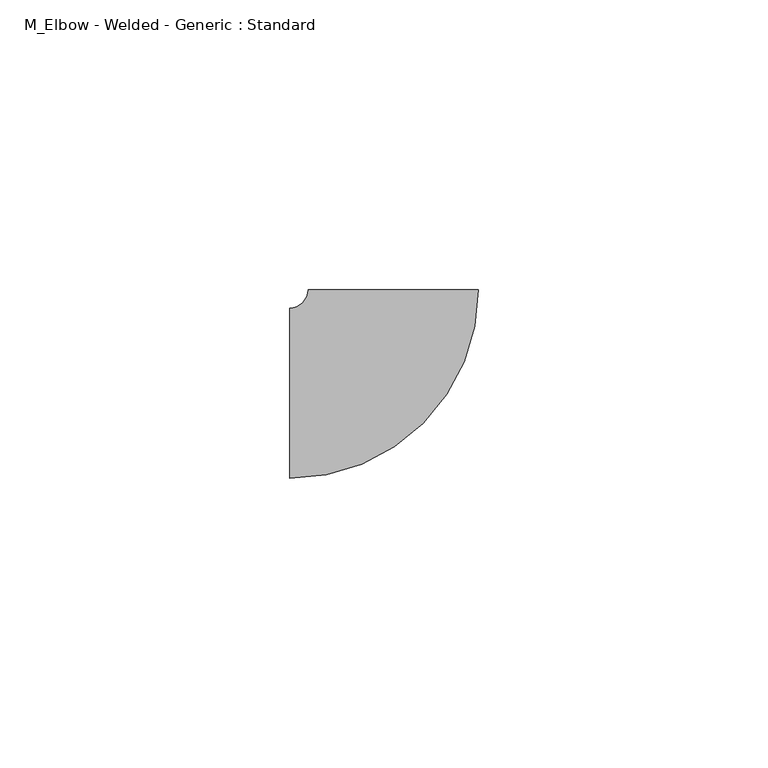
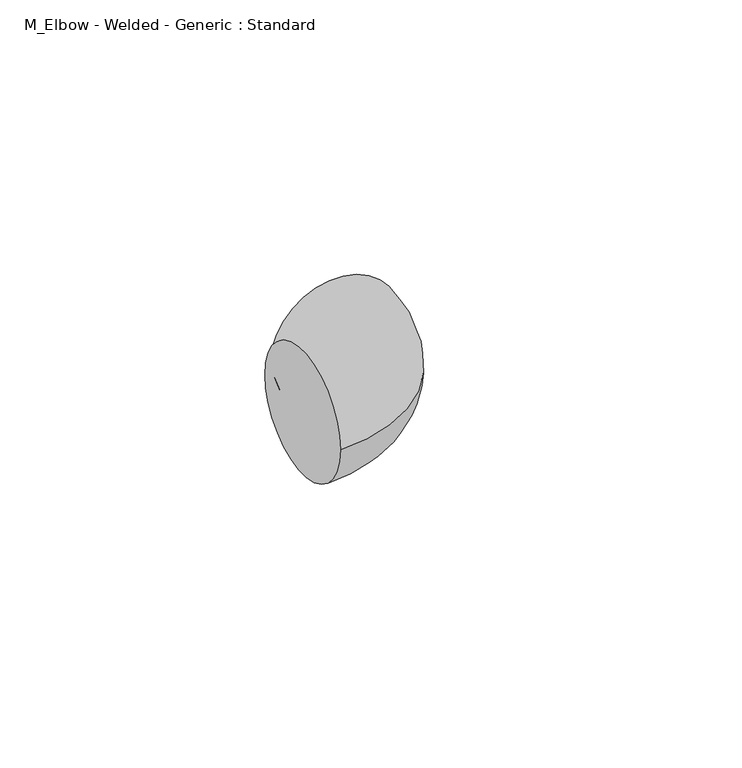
"""IFC4 building model written with IfcOpenShell, lengths in millimetres: pipe fitting geometry, M_Elbow - Welded - Generic : Standard."""

from ifc_helpers import new_model, si_unit, point, frame, origin, place, context, project, spatial, circle_curve, ellipse_curve, trimmed, source, transform, mapped, element, save
from ifc_brep_helpers import plane_surface, revolved_surface, advanced_brep


def m_elbow_welded_generic_standard_71397803(model_context):
    return source(origin(), model_context, "Body", "AdvancedBrep", [
        advanced_brep(
        [(-17.909402, -14.7089844, 0.0), (-17.909402, 14.7089844, 0.0), (14.7085668, 17.9097449, 0.0), (-14.709402, 17.909059, 0.0)],
        [
            (0, 1, circle_curve(frame((-17.909402, 0.0, 0.0), z_axis=(-1.0, 0.0, 0.0), x_axis=(0.0, 1.0, 0.0)), 14.7089844)),
            (1, 0, circle_curve(frame((-17.909402, 0.0, 0.0), z_axis=(-1.0, 0.0, 0.0), x_axis=(0.0, 1.0, 0.0)), 14.7089844)),
            (2, 3, circle_curve(frame((-0.0004176, 17.909402, 0.0), z_axis=(-2.331698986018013e-05, 0.999999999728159, 0.0), x_axis=(-0.999999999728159, -2.331698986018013e-05, 0.0)), 14.7089844)),
            (3, 2, circle_curve(frame((-0.0004176, 17.909402, 0.0), z_axis=(-2.331698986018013e-05, 0.999999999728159, 0.0), x_axis=(-0.999999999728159, -2.331698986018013e-05, 0.0)), 14.7089844)),
            (3, 1, circle_curve(frame((-17.909402, 17.9089844, 0.0), z_axis=(0.0, 0.0, -1.0), x_axis=(0.0, -1.0, 0.0)), 3.2)),
            (0, 2, circle_curve(frame((-17.909402, 17.9089844, 0.0), z_axis=(0.0, 0.0, 1.0), x_axis=(0.0, -1.0, 0.0)), 32.6179688)),
        ],
        [
            plane_surface(frame((-17.909402, 0.0, 0.0), z_axis=(-1.0, 0.0, 0.0), x_axis=(0.0, 0.0, 1.0))),
            plane_surface(frame((-0.0004176, 17.909402, 0.0), z_axis=(-2.3316989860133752e-05, 0.9999999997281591, 0.0), x_axis=(0.0, 0.0, 1.0))),
            revolved_surface(trimmed(ellipse_curve(frame((-17.909402, 0.0, 0.0), z_axis=(-1.0, 0.0, 0.0), x_axis=(0.0, 1.0, 0.0)), 14.7089844, 14.7089844), [point((-17.909402, -14.7089844, 0.0))], [point((-17.909402, 14.7089844, 0.0))], True, "CARTESIAN"), (-17.909402, 17.9089844, 0.0), (0.0, 0.0, 1.0)),
            revolved_surface(trimmed(ellipse_curve(frame((-17.909402, 0.0, 0.0), z_axis=(-1.0, 0.0, 0.0), x_axis=(0.0, 1.0, 0.0)), 14.7089844, 14.7089844), [point((-17.909402, 14.7089844, 0.0))], [point((-17.909402, -14.7089844, 0.0))], True, "CARTESIAN"), (-17.909402, 17.9089844, 0.0), (0.0, 0.0, 1.0)),
        ],
        [
            (0, [[1, 2]]),
            (1, [[3, 4]]),
            (2, [[5, -1, 6, -4]]),
            (3, [[-6, -2, -5, -3]]),
        ],
    ),
    ])


if __name__ == "__main__":
    model = new_model("IFC4")
    model_context = context("Model", 3, world=origin())
    ifc_project = project(units=[si_unit("LENGTHUNIT", "METRE", prefix="MILLI")], contexts=[model_context])
    site = spatial("IfcSite", under=ifc_project)
    building = spatial("IfcBuilding", under=site)
    placement = place(None, origin())
    m_elbow_welded_generic_standard_shape = m_elbow_welded_generic_standard_71397803(model_context)
    element("IfcPipeFitting", 1, ObjectType="M_Elbow - Welded - Generic : Standard", at=placement, inside=building, context=model_context, shape_type="MappedRepresentation", body=[
        mapped(m_elbow_welded_generic_standard_shape, transform((0.0, 0.0, 0.0), x_axis=(1.0, 0.0, 0.0), y_axis=(0.0, 1.0, 0.0), z_axis=(0.0, 0.0, 1.0))),
    ])
    save(model, "model.ifc")
